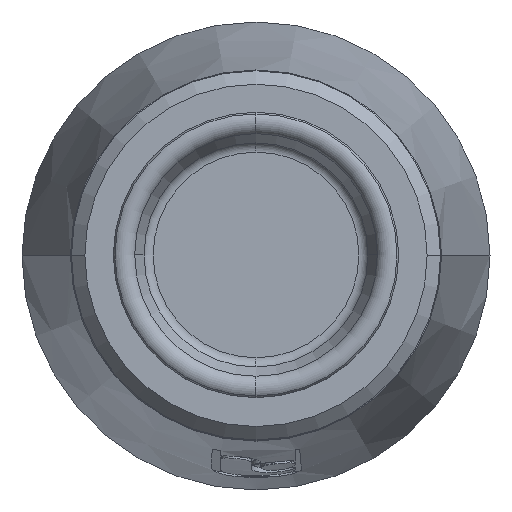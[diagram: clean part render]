
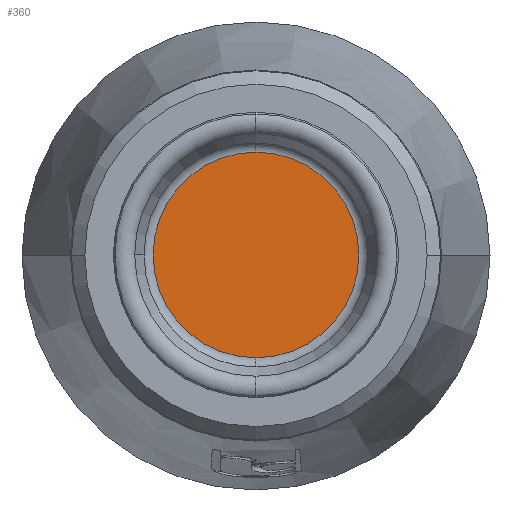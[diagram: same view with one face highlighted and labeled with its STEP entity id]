
A CAD part, top view. The second image highlights one B-rep face of the part: STEP entity #360.
In plain terms, the highlighted planar face has unit normal (0, 0, 1).
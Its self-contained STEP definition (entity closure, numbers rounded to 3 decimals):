
#360=ADVANCED_FACE('',(#744),#745,.T.);
#744=FACE_OUTER_BOUND('',#1185,.T.);
#745=PLANE('',#1186);
#1185=EDGE_LOOP('',(#2086,#2087,#2088));
#1186=AXIS2_PLACEMENT_3D('',#2089,#2090,#2091);
#2086=ORIENTED_EDGE('',*,*,#2816,.T.);
#2087=ORIENTED_EDGE('',*,*,#2827,.T.);
#2088=ORIENTED_EDGE('',*,*,#2817,.T.);
#2089=CARTESIAN_POINT('',(309.397,182.568,181.));
#2090=DIRECTION('',(0.,0.,1.0));
#2091=DIRECTION('',(-1.0,0.,0.));
#2816=EDGE_CURVE('',#3420,#3418,#3421,.T.);
#2817=EDGE_CURVE('',#3412,#3420,#3422,.T.);
#2827=EDGE_CURVE('',#3418,#3412,#3434,.T.);
#3412=VERTEX_POINT('',#4828);
#3418=VERTEX_POINT('',#4834);
#3420=VERTEX_POINT('',#4836);
#3421=CIRCLE('',#4837,30.646);
#3422=CIRCLE('',#4838,30.646);
#3434=CIRCLE('',#4852,30.646);
#4828=CARTESIAN_POINT('',(326.22,213.214,181.));
#4834=CARTESIAN_POINT('',(326.22,151.922,181.));
#4836=CARTESIAN_POINT('',(295.574,182.568,181.));
#4837=AXIS2_PLACEMENT_3D('',#5546,#5547,#5548);
#4838=AXIS2_PLACEMENT_3D('',#5549,#5550,#5551);
#4852=AXIS2_PLACEMENT_3D('',#5566,#5567,#5568);
#5546=CARTESIAN_POINT('',(326.22,182.568,181.));
#5547=DIRECTION('',(0.,0.,1.0));
#5548=DIRECTION('',(-1.0,0.,0.));
#5549=CARTESIAN_POINT('',(326.22,182.568,181.));
#5550=DIRECTION('',(0.,0.,1.0));
#5551=DIRECTION('',(-1.0,0.,0.));
#5566=CARTESIAN_POINT('',(326.22,182.568,181.));
#5567=DIRECTION('',(0.,0.,1.0));
#5568=DIRECTION('',(-1.0,0.,0.));
